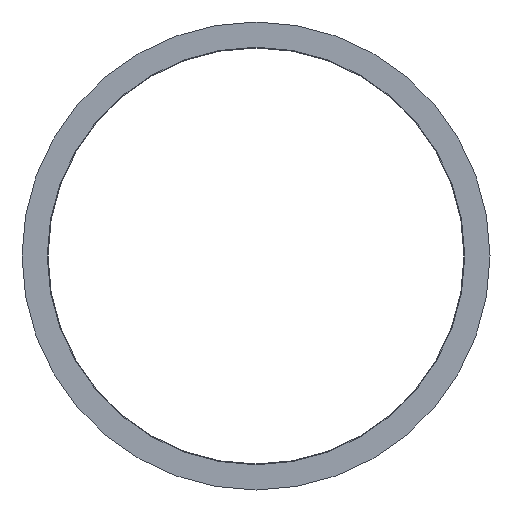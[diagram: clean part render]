
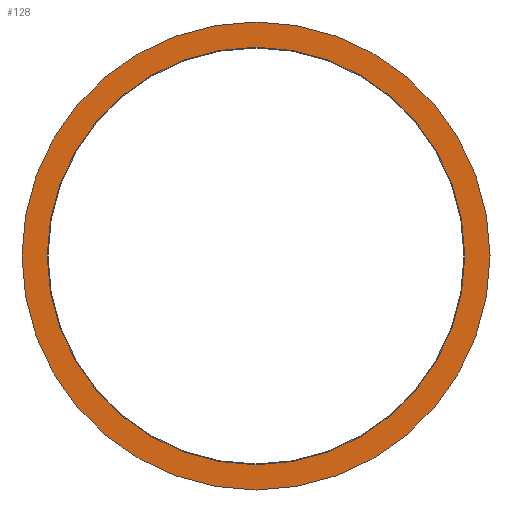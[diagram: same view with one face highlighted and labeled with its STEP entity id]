
A CAD part, left-side view. The second image highlights one B-rep face of the part: STEP entity #128.
In plain terms, the highlighted planar face has unit normal (-1, 0, 0).
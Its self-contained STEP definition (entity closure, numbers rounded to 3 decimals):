
#8 = EDGE_CURVE ( 'NONE', #206, #91, #239, .T. ) ;
#10 = DIRECTION ( 'NONE',  ( 1., 0., 0. ) ) ;
#21 = AXIS2_PLACEMENT_3D ( 'NONE', #199, #243, #269 ) ;
#30 = FACE_OUTER_BOUND ( 'NONE', #138, .T. ) ;
#32 = EDGE_CURVE ( 'NONE', #91, #206, #34, .T. ) ;
#34 = CIRCLE ( 'NONE', #21, 18. ) ;
#44 = DIRECTION ( 'NONE',  ( 1., 0., 0. ) ) ;
#69 = CARTESIAN_POINT ( 'NONE',  ( -2.907, -0.028, 0. ) ) ;
#71 = PLANE ( 'NONE',  #142 ) ;
#74 = AXIS2_PLACEMENT_3D ( 'NONE', #338, #10, #232 ) ;
#81 = EDGE_LOOP ( 'NONE', ( #238, #185 ) ) ;
#91 = VERTEX_POINT ( 'NONE', #385 ) ;
#101 = DIRECTION ( 'NONE',  ( -1., 0., 0. ) ) ;
#104 = VERTEX_POINT ( 'NONE', #134 ) ;
#109 = DIRECTION ( 'NONE',  ( 1., 0., 0. ) ) ;
#123 = DIRECTION ( 'NONE',  ( 0., 0., -1. ) ) ;
#128 = ADVANCED_FACE ( 'NONE', ( #347, #30 ), #71, .T. ) ;
#134 = CARTESIAN_POINT ( 'NONE',  ( -2.907, -0.028, -16.055 ) ) ;
#138 = EDGE_LOOP ( 'NONE', ( #241, #261 ) ) ;
#142 = AXIS2_PLACEMENT_3D ( 'NONE', #69, #101, #291 ) ;
#185 = ORIENTED_EDGE ( 'NONE', *, *, #404, .T. ) ;
#199 = CARTESIAN_POINT ( 'NONE',  ( -2.907, -0.028, 0. ) ) ;
#200 = EDGE_CURVE ( 'NONE', #104, #375, #266, .T. ) ;
#206 = VERTEX_POINT ( 'NONE', #348 ) ;
#212 = AXIS2_PLACEMENT_3D ( 'NONE', #337, #44, #396 ) ;
#232 = DIRECTION ( 'NONE',  ( 0., 0., -1. ) ) ;
#238 = ORIENTED_EDGE ( 'NONE', *, *, #200, .T. ) ;
#239 = CIRCLE ( 'NONE', #74, 18. ) ;
#241 = ORIENTED_EDGE ( 'NONE', *, *, #32, .F. ) ;
#242 = CIRCLE ( 'NONE', #292, 16.055 ) ;
#243 = DIRECTION ( 'NONE',  ( 1., 0., 0. ) ) ;
#261 = ORIENTED_EDGE ( 'NONE', *, *, #8, .F. ) ;
#266 = CIRCLE ( 'NONE', #212, 16.055 ) ;
#269 = DIRECTION ( 'NONE',  ( 0., 0., -1. ) ) ;
#291 = DIRECTION ( 'NONE',  ( 0., 0., 1. ) ) ;
#292 = AXIS2_PLACEMENT_3D ( 'NONE', #319, #109, #123 ) ;
#319 = CARTESIAN_POINT ( 'NONE',  ( -2.907, -0.028, 0. ) ) ;
#337 = CARTESIAN_POINT ( 'NONE',  ( -2.907, -0.028, 0. ) ) ;
#338 = CARTESIAN_POINT ( 'NONE',  ( -2.907, -0.028, 0. ) ) ;
#347 = FACE_BOUND ( 'NONE', #81, .T. ) ;
#348 = CARTESIAN_POINT ( 'NONE',  ( -2.907, -0.028, 18. ) ) ;
#375 = VERTEX_POINT ( 'NONE', #401 ) ;
#385 = CARTESIAN_POINT ( 'NONE',  ( -2.907, -0.028, -18. ) ) ;
#396 = DIRECTION ( 'NONE',  ( 0., 0., -1. ) ) ;
#401 = CARTESIAN_POINT ( 'NONE',  ( -2.907, -0.028, 16.055 ) ) ;
#404 = EDGE_CURVE ( 'NONE', #375, #104, #242, .T. ) ;
